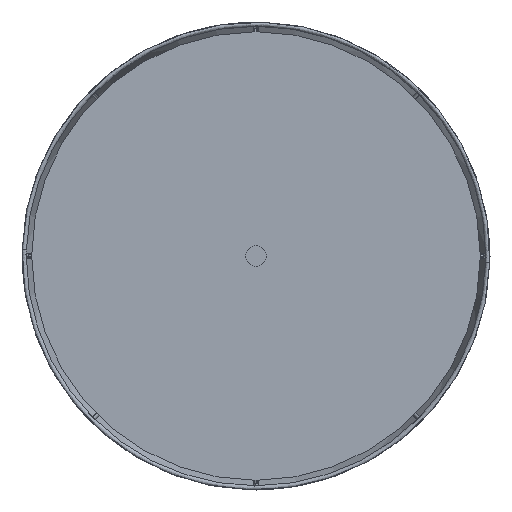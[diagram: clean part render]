
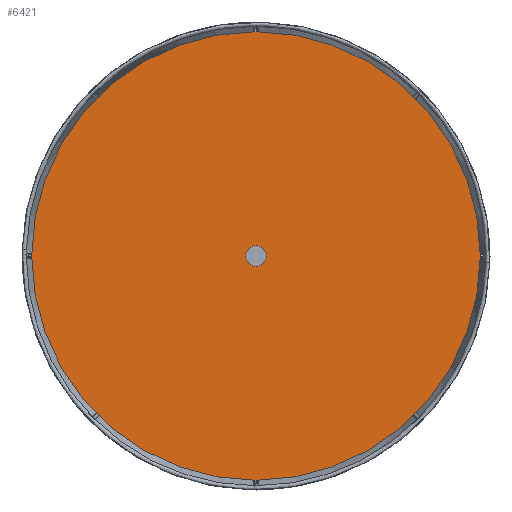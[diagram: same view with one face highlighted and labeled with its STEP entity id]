
A CAD part, front view. The second image highlights one B-rep face of the part: STEP entity #6421.
In plain terms, the highlighted planar face has unit normal (0, -1, 0).
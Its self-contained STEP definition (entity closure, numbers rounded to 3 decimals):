
#182 = EDGE_CURVE ( 'NONE', #6529, #2137, #1129, .T. ) ;
#252 = DIRECTION ( 'NONE',  ( 0., -1., 0. ) ) ;
#450 = DIRECTION ( 'NONE',  ( 0., -1., 0. ) ) ;
#531 = CARTESIAN_POINT ( 'NONE',  ( 0., -2., -271. ) ) ;
#674 = DIRECTION ( 'NONE',  ( 0., 0., 1. ) ) ;
#1016 = CARTESIAN_POINT ( 'NONE',  ( 0., -2., 0. ) ) ;
#1129 = CIRCLE ( 'NONE', #4374, 271. ) ;
#2010 = VERTEX_POINT ( 'NONE', #6672 ) ;
#2056 = EDGE_LOOP ( 'NONE', ( #3744, #5483 ) ) ;
#2137 = VERTEX_POINT ( 'NONE', #531 ) ;
#2452 = EDGE_CURVE ( 'NONE', #6633, #2010, #3962, .T. ) ;
#2704 = DIRECTION ( 'NONE',  ( 0., -1., 0. ) ) ;
#2956 = AXIS2_PLACEMENT_3D ( 'NONE', #3222, #7814, #3884 ) ;
#2998 = ORIENTED_EDGE ( 'NONE', *, *, #2452, .F. ) ;
#3063 = ORIENTED_EDGE ( 'NONE', *, *, #4962, .F. ) ;
#3222 = CARTESIAN_POINT ( 'NONE',  ( 0., -2., 0. ) ) ;
#3744 = ORIENTED_EDGE ( 'NONE', *, *, #7510, .T. ) ;
#3884 = DIRECTION ( 'NONE',  ( 0., 0., -1. ) ) ;
#3962 = CIRCLE ( 'NONE', #2956, 7. ) ;
#4122 = CARTESIAN_POINT ( 'NONE',  ( 0., -2., 0. ) ) ;
#4168 = CARTESIAN_POINT ( 'NONE',  ( 0., -2., -7. ) ) ;
#4312 = CARTESIAN_POINT ( 'NONE',  ( 0., -2., 0. ) ) ;
#4374 = AXIS2_PLACEMENT_3D ( 'NONE', #4122, #252, #4776 ) ;
#4407 = CIRCLE ( 'NONE', #7974, 7. ) ;
#4547 = DIRECTION ( 'NONE',  ( 0., 1., 0. ) ) ;
#4656 = CARTESIAN_POINT ( 'NONE',  ( 0., -2., 271. ) ) ;
#4776 = DIRECTION ( 'NONE',  ( 0., 0., -1. ) ) ;
#4962 = EDGE_CURVE ( 'NONE', #2010, #6633, #4407, .T. ) ;
#4984 = DIRECTION ( 'NONE',  ( 0., 0., -1. ) ) ;
#5483 = ORIENTED_EDGE ( 'NONE', *, *, #182, .T. ) ;
#5728 = EDGE_LOOP ( 'NONE', ( #2998, #3063 ) ) ;
#5792 = FACE_BOUND ( 'NONE', #5728, .T. ) ;
#6377 = CIRCLE ( 'NONE', #7498, 271. ) ;
#6421 = ADVANCED_FACE ( 'NONE', ( #5792, #7526 ), #7718, .F. ) ;
#6529 = VERTEX_POINT ( 'NONE', #4656 ) ;
#6620 = CARTESIAN_POINT ( 'NONE',  ( 0., -2., 0. ) ) ;
#6633 = VERTEX_POINT ( 'NONE', #4168 ) ;
#6672 = CARTESIAN_POINT ( 'NONE',  ( 0., -2., 7. ) ) ;
#7289 = DIRECTION ( 'NONE',  ( 0., 0., -1. ) ) ;
#7498 = AXIS2_PLACEMENT_3D ( 'NONE', #4312, #450, #4984 ) ;
#7510 = EDGE_CURVE ( 'NONE', #2137, #6529, #6377, .T. ) ;
#7526 = FACE_OUTER_BOUND ( 'NONE', #2056, .T. ) ;
#7718 = PLANE ( 'NONE',  #8234 ) ;
#7814 = DIRECTION ( 'NONE',  ( 0., -1., 0. ) ) ;
#7974 = AXIS2_PLACEMENT_3D ( 'NONE', #6620, #2704, #7289 ) ;
#8234 = AXIS2_PLACEMENT_3D ( 'NONE', #1016, #4547, #674 ) ;
